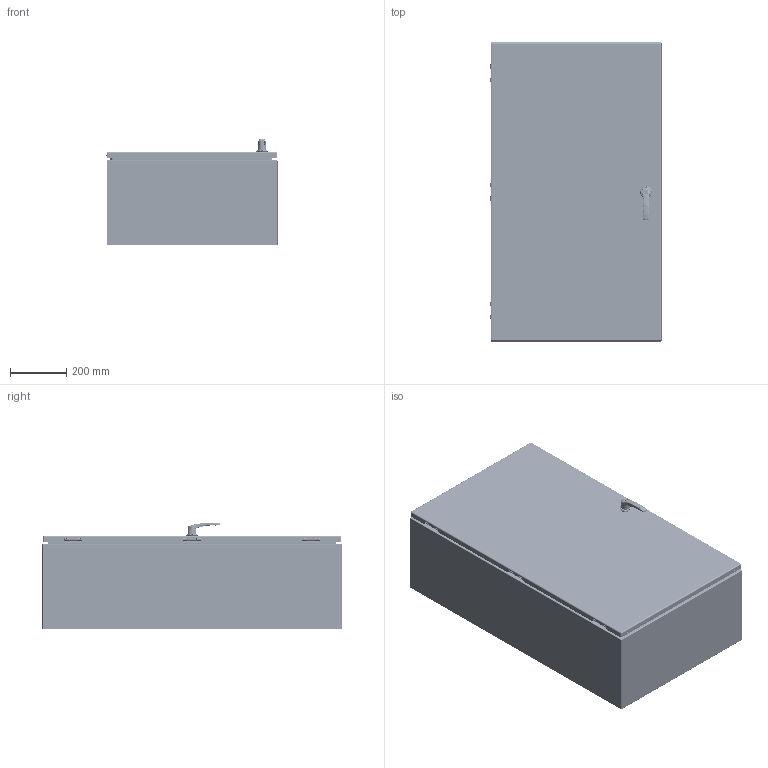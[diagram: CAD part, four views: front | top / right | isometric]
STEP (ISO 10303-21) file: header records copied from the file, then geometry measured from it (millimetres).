
FILE_DESCRIPTION(/* description */ ('5412ES 42" x 24" x 12" Assembly'),/* implementation_level */ '2;1');
FILE_NAME(/* name */ 'C:\Vault_Workspace\Inventor_Dwg\BoxCad\Result\5412ESB422412\e-mail\3D\5412ESB422412.stp',/* time_stamp */ '2022-03-21T14:30:12-04:00',/* author */ ('BoxCad'),/* organization */ (''),/* preprocessor_version */ 'ST-DEVELOPER v18.1',/* originating_system */ 'Autodesk Inventor 2020',/* authorisation */ '');
FILE_SCHEMA (('AUTOMOTIVE_DESIGN { 1 0 10303 214 3 1 1 }'));
Products named in the file (51): 5412ESB422412; 5412ESB422412B; 5412ESB422412B-P; STK-Q-16005; STUD_M6 x 16mm; STK-Q-07610; 881SP4224G; 881SP4224G-P; STK-Q-07310; 5412ESB422412C; 5412ESB422412C-P; 5412ESB422412G; STK-K-09800; STK-K-09800-2; STK-K-09800-3; STK-Q-33014; STK-Q-90398; STK-Q-40095; STK-Q-63410; STK-Q-16055; STK-Q-16405; STK-Q-46020-42; STK-Q-07220-1; STK-Q-07220-2; STK-Q-07220-3; STK-Q-07220-4; STK-Q-07220-5; STK-Q-07220-6; STK-Q-07220-A; STK-Q-07220-B; STK-P-03820R; STK-S-00100; STK-A-885ESL2A-L-1; STK-Q-78210; STK-Q-78215; STK-Q-78220-K; STK-Q-78230; STK-Q-78240; STK-Q-03200-NT; STK-Q-78125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
Assembly tree (103 placements, depth 4):
  5412ESB422412
    5412ESB422412B
      5412ESB422412B-P
      STK-Q-16005  x6
      STK-P-03820R
      STUD_M6 x 16mm
    STK-Q-07610  x6
    881SP4224G
      881SP4224G-P
    STK-Q-07310  x6
    5412ESB422412C
      5412ESB422412C-P
      5412ESB422412G
      STK-K-09800
        STK-Q-33014
        STK-Q-90398
        STK-Q-40095  x2
        STK-Q-63410  x2
      STK-K-09800-2
        STK-Q-33014
        STK-Q-90398
        STK-Q-40095  x2
        STK-Q-63410  x2
      STK-K-09800-3
        STK-Q-33014
        STK-Q-90398
        STK-Q-40095  x2
        STK-Q-63410  x2
      STK-Q-16055  x6
      STK-Q-16405  x2
      STK-Q-46020-42  x2
      STK-Q-07220-1
        STK-Q-07220-A
        STK-Q-07220-B
      STK-Q-07220-2
        STK-Q-07220-A
        STK-Q-07220-B
      STK-Q-07220-3
        STK-Q-07220-A
        STK-Q-07220-B
      STK-Q-07220-4
        STK-Q-07220-A
        STK-Q-07220-B
      STK-Q-07220-5
        STK-Q-07220-A
        STK-Q-07220-B
      STK-Q-07220-6
        STK-Q-07220-A
        STK-Q-07220-B
      STK-P-03820R
      STK-S-00100
      STK-A-885ESL2A-L-1
        STK-Q-78210
        STK-Q-78215
        STK-Q-78220-K
        STK-Q-78230
        STK-Q-78240
        STK-Q-03200-NT
        STK-Q-78125
        STK-Q-90380
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Bounding box: 609.67 x 1066.8 x 381.39 mm (x, y, z)
Volume: 5705006.8 mm3; surface area: 6718127.3 mm2
Topology: 83 solids, 83 shells, 13497 faces, 36229 edges, 23045 vertices
Faces by surface type: bspline 4880, cylinder 3771, plane 3308, torus 1071, sphere 242, cone 225
Full cylindrical faces by diameter (mm): 0 x1, 0.75 x15, 0.762 x15, 1 x12, 1.1 x12, 1.581 x1, 2.459 x1, 3.2 x6, 4.191 x76, 4.2 x2, 4.5 x6, 4.521 x12, 4.75 x3, 4.85 x24, 4.95 x6, 5 x6, 5.1 x22, 5.11 x1, 5.156 x4, 5.6 x3, 5.9 x22, 6.015 x76, 6.65 x6, 6.8 x6, 6.85 x24, 7.112 x6, 7.3 x3, 7.366 x4, 7.5 x2, 7.9 x8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
Entity records: 192628 total; most frequent: CARTESIAN_POINT 73321, ORIENTED_EDGE 26758, DIRECTION 20814, EDGE_CURVE 13379, VERTEX_POINT 8452, AXIS2_PLACEMENT_3D 7755, EDGE_LOOP 5619, LINE 5304
